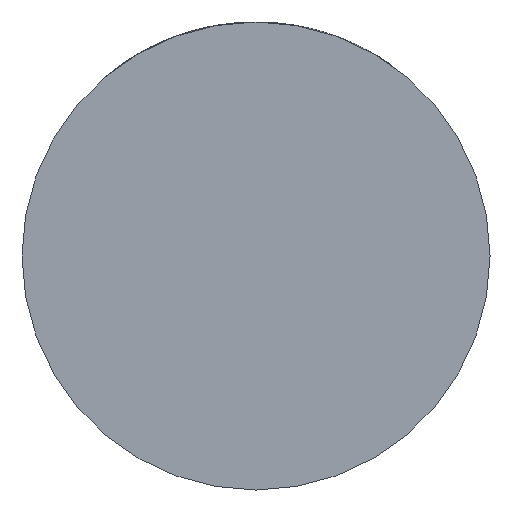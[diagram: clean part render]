
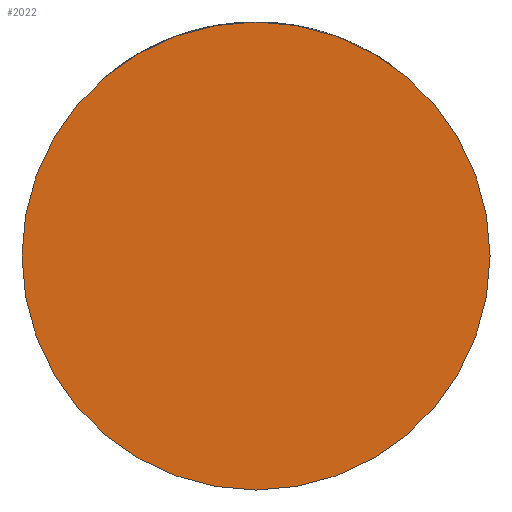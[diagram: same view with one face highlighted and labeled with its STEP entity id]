
A CAD part, front view. The second image highlights one B-rep face of the part: STEP entity #2022.
In plain terms, the highlighted planar face has unit normal (0, -1, 0).
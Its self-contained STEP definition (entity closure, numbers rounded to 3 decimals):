
#514 = CARTESIAN_POINT ( 'NONE',  ( -39., -36., 0. ) ) ;
#575 = CIRCLE ( 'NONE', #1527, 39. ) ;
#706 = ORIENTED_EDGE ( 'NONE', *, *, #3846, .T. ) ;
#903 = CARTESIAN_POINT ( 'NONE',  ( 0., -36., 0. ) ) ;
#981 = ORIENTED_EDGE ( 'NONE', *, *, #3337, .T. ) ;
#1004 = AXIS2_PLACEMENT_3D ( 'NONE', #1352, #2734, #1738 ) ;
#1240 = AXIS2_PLACEMENT_3D ( 'NONE', #2553, #3609, #2482 ) ;
#1352 = CARTESIAN_POINT ( 'NONE',  ( 0., -36., 0. ) ) ;
#1500 = DIRECTION ( 'NONE',  ( 1., 0., 0. ) ) ;
#1527 = AXIS2_PLACEMENT_3D ( 'NONE', #903, #4354, #1500 ) ;
#1738 = DIRECTION ( 'NONE',  ( 1., 0., 0. ) ) ;
#2022 = ADVANCED_FACE ( 'NONE', ( #3102 ), #3077, .T. ) ;
#2482 = DIRECTION ( 'NONE',  ( 1., 0., 0. ) ) ;
#2553 = CARTESIAN_POINT ( 'NONE',  ( 0., -36., 0. ) ) ;
#2734 = DIRECTION ( 'NONE',  ( 0., -1., 0. ) ) ;
#2827 = EDGE_LOOP ( 'NONE', ( #981, #706 ) ) ;
#3077 = PLANE ( 'NONE',  #1004 ) ;
#3102 = FACE_OUTER_BOUND ( 'NONE', #2827, .T. ) ;
#3201 = CIRCLE ( 'NONE', #1240, 39. ) ;
#3337 = EDGE_CURVE ( 'NONE', #3726, #3950, #575, .T. ) ;
#3609 = DIRECTION ( 'NONE',  ( 0., -1., 0. ) ) ;
#3726 = VERTEX_POINT ( 'NONE', #514 ) ;
#3846 = EDGE_CURVE ( 'NONE', #3950, #3726, #3201, .T. ) ;
#3950 = VERTEX_POINT ( 'NONE', #4040 ) ;
#4040 = CARTESIAN_POINT ( 'NONE',  ( 39., -36., 0. ) ) ;
#4354 = DIRECTION ( 'NONE',  ( 0., -1., 0. ) ) ;
